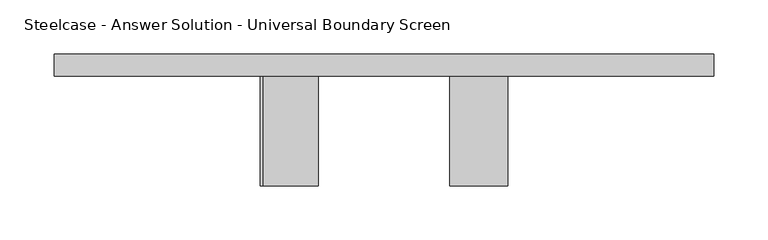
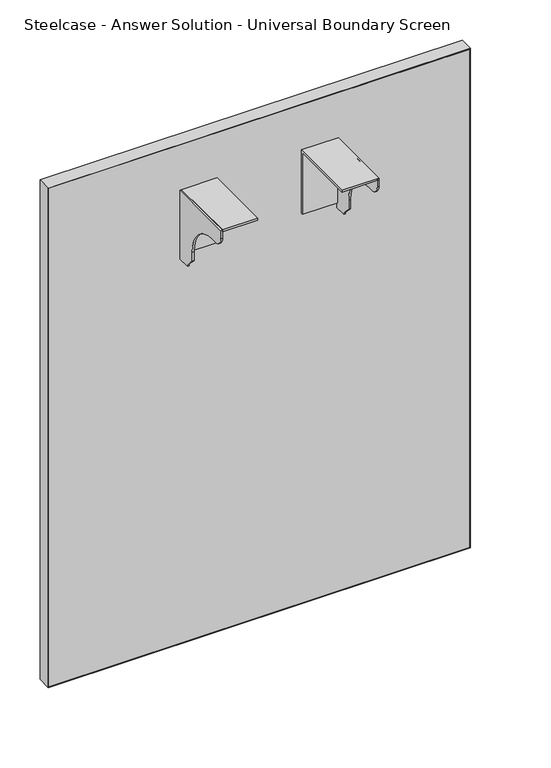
"""IFC4 building model written with IfcOpenShell, lengths in millimetres: furniture geometry, Steelcase - Answer Solution - Universal Boundary Screen : 30H x 24W."""

from ifc_helpers import new_model, si_unit, point, frame, frame_2d, origin, place, context, project, spatial, polyline, circle_curve, trimmed, segment, composite_curve, outline, extrude, source, transform, mapped, element, save


def steelcase_answer_solution_universal_boundary_screen_87d1681d(model_context):
    return source(origin(), model_context, "Body", "SweptSolid", [
        extrude(outline(polyline([(-103.1670434, 689.3558876), (-103.1670434, 692.1499758), (-1.5668826, 692.1499758), (-1.5668826, 595.5029317), (-4.1079736, 595.5029317), (-4.1079736, 689.3558876), (-103.1670434, 689.3558876)])), frame((591.0336711, 0.0, 0.0), z_axis=(1.0, 0.0, 0.0), x_axis=(0.0, 1.0, 0.0)), (0.0, 0.0, 1.0), 53.3444116),
        extrude(outline(composite_curve([segment(polyline([(-103.1670434, 679.2814802), (-103.1670434, 692.1499758), (-1.5668826, 692.1499758), (-1.5668826, 586.9634093), (-19.8232934, 586.9634093), (-19.8232934, 589.7574248), (-32.0458032, 601.9799346), (-32.0458032, 615.7814802)]), True, "CONTINUOUS"), segment(trimmed(circle_curve(frame_2d((-82.8458032, 615.7814802)), 50.8), [point((-32.0458032, 615.7814802))], [point((-82.8458032, 666.5814802))], True, "CARTESIAN"), True, "CONTINUOUS"), segment(polyline([(-82.8458032, 666.5814802), (-90.4670434, 666.5814802)]), True, "CONTINUOUS"), segment(trimmed(circle_curve(frame_2d((-90.4670434, 679.2814802)), 12.7), [point((-90.4670434, 666.5814802))], [point((-103.1670434, 679.2814802))], False, "CARTESIAN"), True, "CONTINUOUS")], self_intersect=False)), frame((641.8328959, 0.0, 0.0), z_axis=(1.0, 0.0, 0.0), x_axis=(0.0, 1.0, 0.0)), (0.0, 0.0, 1.0), 2.5451868),
        extrude(outline(polyline([(-103.1670434, 689.3558876), (-103.1670434, 692.1499758), (-1.5668826, 692.1499758), (-1.5668826, 595.5029317), (-4.1079736, 595.5029317), (-4.1079736, 689.3558876), (-103.1670434, 689.3558876)])), frame((418.3232694, 0.0, 0.0), z_axis=(1.0, 0.0, 0.0), x_axis=(0.0, 1.0, 0.0)), (0.0, 0.0, 1.0), 50.7992249),
        extrude(outline(composite_curve([segment(polyline([(-103.1670434, 679.2814802), (-103.1670434, 692.1499758), (-1.5668826, 692.1499758), (-1.5668826, 586.9634093), (-19.8232934, 586.9634093), (-19.8232934, 589.7574248), (-32.0458032, 601.9799346), (-32.0458032, 615.7814802)]), True, "CONTINUOUS"), segment(trimmed(circle_curve(frame_2d((-82.8458032, 615.7814802)), 50.8), [point((-32.0458032, 615.7814802))], [point((-82.8458032, 666.5814802))], True, "CARTESIAN"), True, "CONTINUOUS"), segment(polyline([(-82.8458032, 666.5814802), (-90.4670434, 666.5814802)]), True, "CONTINUOUS"), segment(trimmed(circle_curve(frame_2d((-90.4670434, 679.2814802)), 12.7), [point((-90.4670434, 666.5814802))], [point((-103.1670434, 679.2814802))], False, "CARTESIAN"), True, "CONTINUOUS")], self_intersect=False)), frame((415.7780827, 0.0, 0.0), z_axis=(1.0, 0.0, 0.0), x_axis=(0.0, 1.0, 0.0)), (0.0, 0.0, 1.0), 2.5451868),
        extrude(outline(polyline([(226.2706578, 18.9055112), (833.8855076, 18.9055112), (833.8855076, -1.5668826), (226.2706578, -1.5668826), (226.2706578, 18.9055112)])), frame((0.0, 0.0, 1.016), z_axis=(0.0, 0.0, 1.0), x_axis=(1.0, 0.0, 0.0)), (0.0, 0.0, 1.0), 759.9914249),
        extrude(outline(polyline([(762.0, 834.8780827), (762.0, 225.2780827), (0.0, 225.2780827), (0.0, 834.8780827), (762.0, 834.8780827)]), holes=[polyline([(761.0074249, 833.8855076), (1.016, 833.8855076), (1.016, 226.2706578), (761.0074249, 226.2706578), (761.0074249, 833.8855076)])]), frame((0.0, -1.5668826, 0.0), z_axis=(0.0, 1.0, 0.0), x_axis=(0.0, 0.0, 1.0)), (0.0, 0.0, 1.0), 20.4723938),
    ])


if __name__ == "__main__":
    model = new_model("IFC4")
    model_context = context("Model", 3, world=origin())
    ifc_project = project(units=[si_unit("LENGTHUNIT", "METRE", prefix="MILLI")], contexts=[model_context])
    site = spatial("IfcSite", under=ifc_project)
    building = spatial("IfcBuilding", under=site)
    placement = place(None, origin())
    steelcase_answer_solution_universal_boundary_screen_shape = steelcase_answer_solution_universal_boundary_screen_87d1681d(model_context)
    element("IfcFurniture", 1, ObjectType="Steelcase - Answer Solution - Universal Boundary Screen : 30H x 24W", at=placement, inside=building, context=model_context, shape_type="MappedRepresentation", body=[
        mapped(steelcase_answer_solution_universal_boundary_screen_shape, transform((0.0, 0.0, 0.0), x_axis=(1.0, 0.0, 0.0), y_axis=(0.0, 1.0, 0.0), z_axis=(0.0, 0.0, 1.0))),
    ])
    save(model, "model.ifc")
